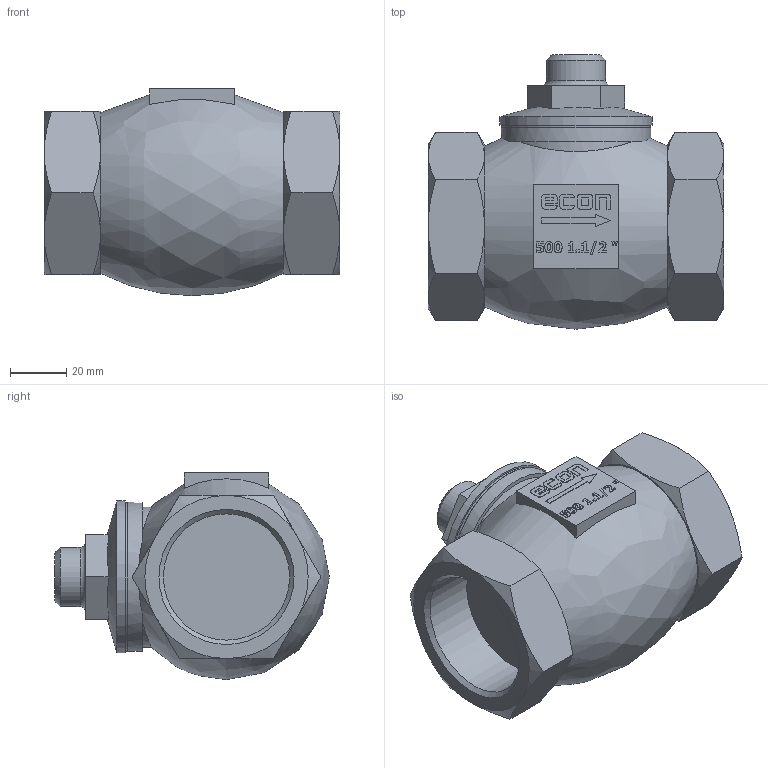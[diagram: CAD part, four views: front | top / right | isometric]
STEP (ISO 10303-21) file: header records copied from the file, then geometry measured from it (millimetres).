
FILE_DESCRIPTION(/* description */ ('Eriks item no: 11811325'),/* implementation_level */ '2;1');
FILE_NAME(/* name */ 'L:\DATA\ENG\Inventor\Econ 3D modellen\terugslagklep\500\500-040-PN16-PTFE.stp',/* time_stamp */ '2023-12-06T15:56:18+01:00',/* author */ ('roger.thijssen'),/* organization */ (''),/* preprocessor_version */ 'ST-DEVELOPER v18',/* originating_system */ 'Autodesk Inventor 2020',/* authorisation */ '');
FILE_SCHEMA (('CONFIG_CONTROL_DESIGN'));
Length unit declared in the file: millimetre
Products named in the file (1): Check valve, 500-040-PN16-PTFE
Bounding box: 105 x 97.5 x 73.7 mm (x, y, z)
Volume: 318415.4 mm3; surface area: 37730.8 mm2
Topology: 1 solids, 1 shells, 248 faces, 640 edges, 422 vertices
Faces by surface type: plane 147, bspline 51, cone 28, cylinder 21, torus 1
Full cylindrical faces by diameter (mm): 21 x1, 44.845 x2, 52.6 x1, 53 x1, 54 x1
Entity records: 8019 total; most frequent: CARTESIAN_POINT 2330, ORIENTED_EDGE 1280, DIRECTION 962, EDGE_CURVE 640, VERTEX_POINT 422, LINE 384, VECTOR 384, AXIS2_PLACEMENT_3D 289
